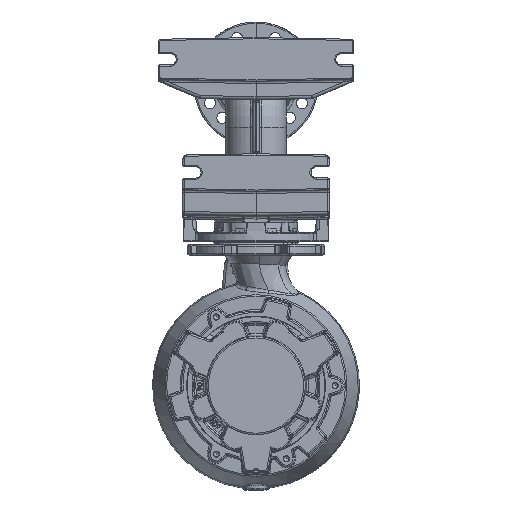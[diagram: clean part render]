
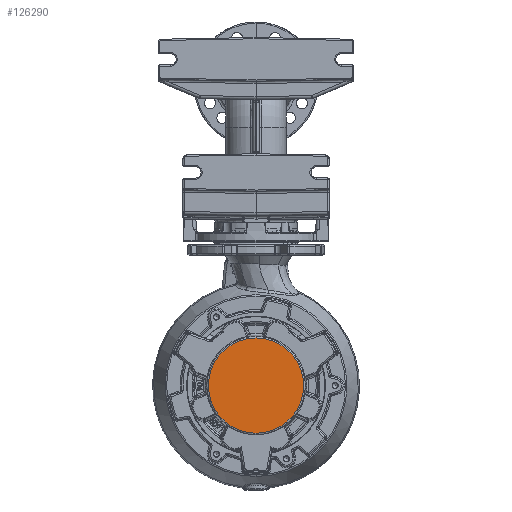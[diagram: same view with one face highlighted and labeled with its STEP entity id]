
A CAD part, front view. The second image highlights one B-rep face of the part: STEP entity #126290.
In plain terms, the highlighted planar face has unit normal (0, -1, 0).
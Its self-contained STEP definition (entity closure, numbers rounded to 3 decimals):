
#5480 = EDGE_LOOP ( 'NONE', ( #13212 ) ) ;
#13212 = ORIENTED_EDGE ( 'NONE', *, *, #112604, .T. ) ;
#16244 = CARTESIAN_POINT ( 'NONE',  ( 5.886, -86.5, -263. ) ) ;
#19660 = FACE_OUTER_BOUND ( 'NONE', #5480, .T. ) ;
#22323 = CARTESIAN_POINT ( 'NONE',  ( -76.628, -86.5, -263. ) ) ;
#41122 = AXIS2_PLACEMENT_3D ( 'NONE', #16244, #98499, #108841 ) ;
#69127 = CARTESIAN_POINT ( 'NONE',  ( 0., -86.5, -263. ) ) ;
#74597 = CIRCLE ( 'NONE', #130408, 76.628 ) ;
#98499 = DIRECTION ( 'NONE',  ( 0., -1., 0. ) ) ;
#108841 = DIRECTION ( 'NONE',  ( 0., 0., 1. ) ) ;
#112604 = EDGE_CURVE ( 'NONE', #129749, #129749, #74597, .T. ) ;
#119311 = PLANE ( 'NONE',  #41122 ) ;
#120764 = DIRECTION ( 'NONE',  ( 0., -1., 0. ) ) ;
#126290 = ADVANCED_FACE ( 'NONE', ( #19660 ), #119311, .T. ) ;
#129749 = VERTEX_POINT ( 'NONE', #22323 ) ;
#130408 = AXIS2_PLACEMENT_3D ( 'NONE', #69127, #120764, #131216 ) ;
#131216 = DIRECTION ( 'NONE',  ( -1., 0., 0. ) ) ;
